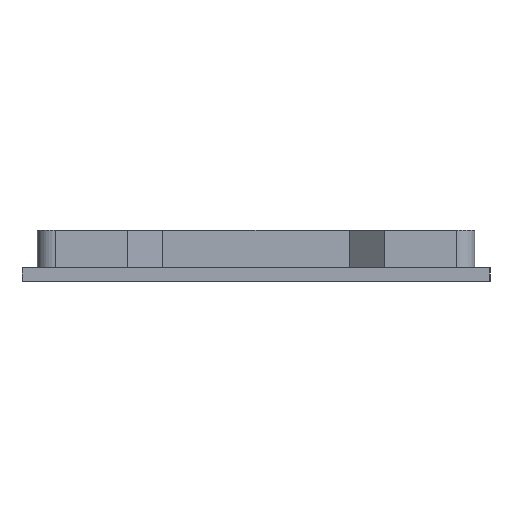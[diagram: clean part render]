
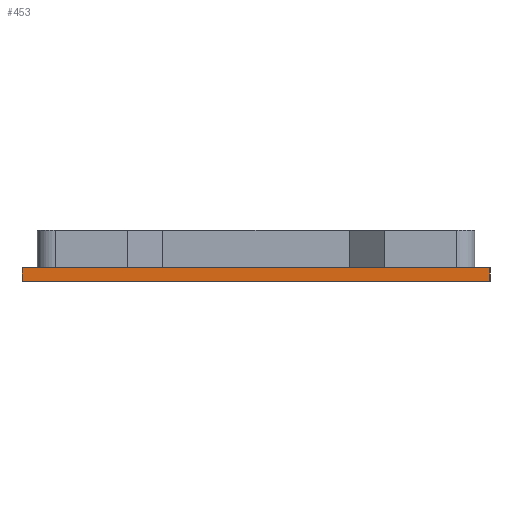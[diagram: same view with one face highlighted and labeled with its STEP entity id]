
A CAD part, front view. The second image highlights one B-rep face of the part: STEP entity #453.
In plain terms, the highlighted planar face has unit normal (0, -1, 0).
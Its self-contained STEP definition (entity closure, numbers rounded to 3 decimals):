
#4 = EDGE_CURVE ( 'NONE', #77, #44, #751, .T. ) ;
#43 = VERTEX_POINT ( 'NONE', #133 ) ;
#44 = VERTEX_POINT ( 'NONE', #134 ) ;
#73 = EDGE_CURVE ( 'NONE', #78, #43, #776, .T. ) ;
#74 = EDGE_CURVE ( 'NONE', #77, #78, #781, .T. ) ;
#77 = VERTEX_POINT ( 'NONE', #186 ) ;
#78 = VERTEX_POINT ( 'NONE', #183 ) ;
#101 = CARTESIAN_POINT ( 'NONE',  ( 25.15, 4.2, -62.5 ) ) ;
#104 = DIRECTION ( 'NONE',  ( 0., 0., 1. ) ) ;
#133 = CARTESIAN_POINT ( 'NONE',  ( -25.15, 4.2, -61. ) ) ;
#134 = CARTESIAN_POINT ( 'NONE',  ( 25.15, 4.2, -61. ) ) ;
#176 = CARTESIAN_POINT ( 'NONE',  ( -25.15, 4.2, -62.5 ) ) ;
#180 = DIRECTION ( 'NONE',  ( 0., 0., 1. ) ) ;
#181 = CARTESIAN_POINT ( 'NONE',  ( 25.15, 4.2, -62.5 ) ) ;
#182 = DIRECTION ( 'NONE',  ( -1., 0., 0. ) ) ;
#183 = CARTESIAN_POINT ( 'NONE',  ( -25.15, 4.2, -62.5 ) ) ;
#186 = CARTESIAN_POINT ( 'NONE',  ( 25.15, 4.2, -62.5 ) ) ;
#237 = CARTESIAN_POINT ( 'NONE',  ( 25.15, 4.2, -62.5 ) ) ;
#242 = PLANE ( 'NONE',  #569 ) ;
#247 = DIRECTION ( 'NONE',  ( 0., 1., 0. ) ) ;
#248 = DIRECTION ( 'NONE',  ( -1., 0., 0. ) ) ;
#453 = ADVANCED_FACE ( 'NONE', ( #793 ), #242, .F. ) ;
#569 = AXIS2_PLACEMENT_3D ( 'NONE', #237, #247, #248 ) ;
#670 = ORIENTED_EDGE ( 'NONE', *, *, #1229, .T. ) ;
#671 = ORIENTED_EDGE ( 'NONE', *, *, #73, .F. ) ;
#672 = ORIENTED_EDGE ( 'NONE', *, *, #74, .F. ) ;
#673 = ORIENTED_EDGE ( 'NONE', *, *, #4, .T. ) ;
#751 = LINE ( 'NONE', #101, #753 ) ;
#753 = VECTOR ( 'NONE', #104, 1000. ) ;
#776 = LINE ( 'NONE', #176, #779 ) ;
#779 = VECTOR ( 'NONE', #180, 1000. ) ;
#781 = LINE ( 'NONE', #181, #782 ) ;
#782 = VECTOR ( 'NONE', #182, 1000. ) ;
#793 = FACE_OUTER_BOUND ( 'NONE', #1260, .T. ) ;
#1020 = CARTESIAN_POINT ( 'NONE',  ( 25.15, 4.2, -61. ) ) ;
#1021 = DIRECTION ( 'NONE',  ( -1., 0., 0. ) ) ;
#1127 = LINE ( 'NONE', #1020, #1128 ) ;
#1128 = VECTOR ( 'NONE', #1021, 1000. ) ;
#1229 = EDGE_CURVE ( 'NONE', #44, #43, #1127, .T. ) ;
#1260 = EDGE_LOOP ( 'NONE', ( #670, #671, #672, #673 ) ) ;
